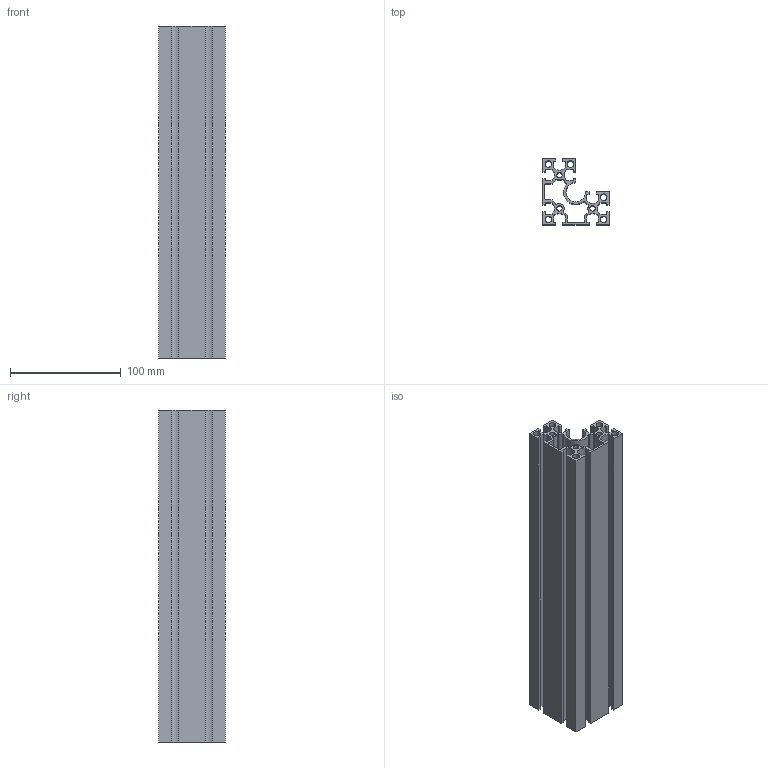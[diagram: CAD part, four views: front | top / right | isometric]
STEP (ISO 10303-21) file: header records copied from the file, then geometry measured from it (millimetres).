
FILE_DESCRIPTION (( 'STEP AP203' ), '1' );
FILE_NAME ('CG-6630-6.STEP', '2016-03-05T15:21:00', ( '' ), ( '' ), 'SwSTEP 2.0', 'SolidWorks 2013', '' );
FILE_SCHEMA (( 'CONFIG_CONTROL_DESIGN' ));
Length unit declared in the file: millimetre
Products named in the file (1): CG-6630-6
Bounding box: 60 x 60 x 300 mm (x, y, z)
Volume: 266117.5 mm3; surface area: 229360.1 mm2
Topology: 1 solids, 1 shells, 124 faces, 366 edges, 244 vertices
Faces by surface type: plane 70, cylinder 54
Entity records: 4271 total; most frequent: CARTESIAN_POINT 735, ORIENTED_EDGE 732, DIRECTION 724, EDGE_CURVE 366, LINE 258, VECTOR 258, VERTEX_POINT 244, AXIS2_PLACEMENT_3D 233
